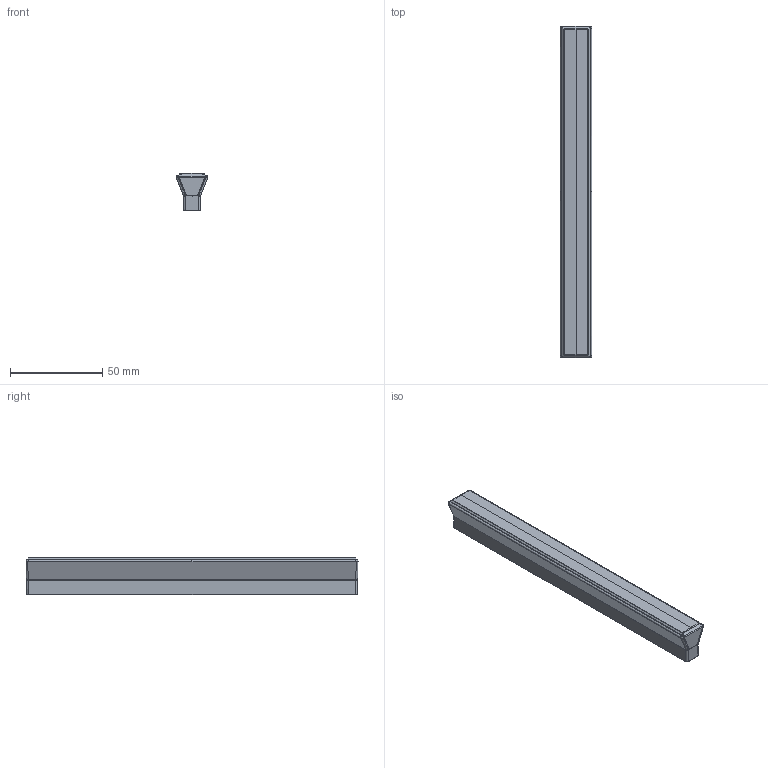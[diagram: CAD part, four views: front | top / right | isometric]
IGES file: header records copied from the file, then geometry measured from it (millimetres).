
Start section: C
Global section: file name: 8109-180.igs; native system: By Siemens PLM Incorporated; preprocessor: XPlus GENERIC/IGES 16.0.42; author: Author; organization: Title; date: 20231128.104859; units: millimetre
Bounding box: 17.09 x 180 x 20.2 mm (x, y, z)
Surface area: 25910.6 mm2 (no closed solid volume)
Topology: 0 solids, 0 shells, 497 faces, 2664 edges, 2649 vertices
Faces by surface type: bspline 497
